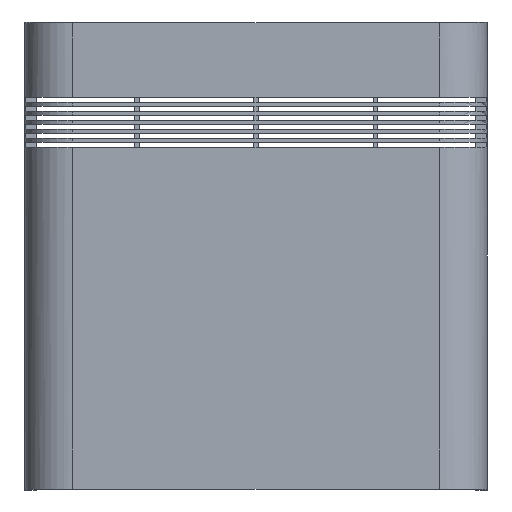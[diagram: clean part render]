
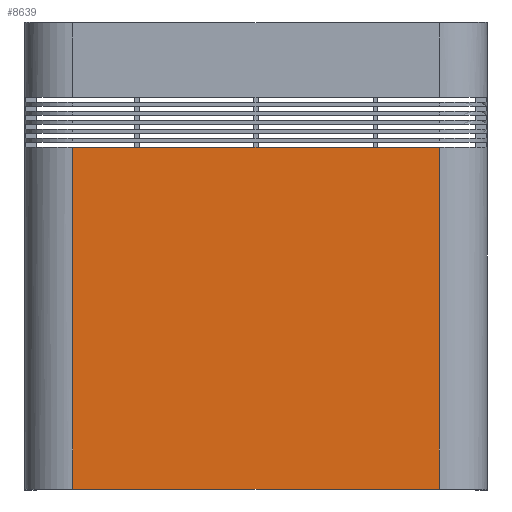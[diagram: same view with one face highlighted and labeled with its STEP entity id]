
A CAD part, front view. The second image highlights one B-rep face of the part: STEP entity #8639.
In plain terms, the highlighted planar face has unit normal (0, -1, 0).
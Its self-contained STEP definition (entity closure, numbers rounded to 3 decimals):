
#342 = ORIENTED_EDGE ( 'NONE', *, *, #6120, .T. ) ;
#361 = ORIENTED_EDGE ( 'NONE', *, *, #3315, .F. ) ;
#635 = CARTESIAN_POINT ( 'NONE',  ( -61.5, -54., 36.5 ) ) ;
#682 = DIRECTION ( 'NONE',  ( 1., 0., 0. ) ) ;
#1080 = VECTOR ( 'NONE', #6146, 1000. ) ;
#1690 = VERTEX_POINT ( 'NONE', #1734 ) ;
#1734 = CARTESIAN_POINT ( 'NONE',  ( 61.5, -54., -78.2 ) ) ;
#2174 = DIRECTION ( 'NONE',  ( 1., 0., 0. ) ) ;
#2220 = DIRECTION ( 'NONE',  ( 0., -1., 0. ) ) ;
#2720 = VERTEX_POINT ( 'NONE', #7290 ) ;
#2726 = VERTEX_POINT ( 'NONE', #7299 ) ;
#2818 = AXIS2_PLACEMENT_3D ( 'NONE', #4339, #2220, #2174 ) ;
#2920 = PLANE ( 'NONE',  #2818 ) ;
#2931 = EDGE_LOOP ( 'NONE', ( #361, #5413, #6351, #342 ) ) ;
#3315 = EDGE_CURVE ( 'NONE', #2720, #2726, #7439, .T. ) ;
#4156 = DIRECTION ( 'NONE',  ( 0., 0., 1. ) ) ;
#4173 = CARTESIAN_POINT ( 'NONE',  ( -61.5, -54., -78.2 ) ) ;
#4219 = LINE ( 'NONE', #4173, #7779 ) ;
#4339 = CARTESIAN_POINT ( 'NONE',  ( -61.5, -54., -78.2 ) ) ;
#4480 = EDGE_CURVE ( 'NONE', #4896, #1690, #7793, .T. ) ;
#4896 = VERTEX_POINT ( 'NONE', #8072 ) ;
#5160 = LINE ( 'NONE', #7605, #8736 ) ;
#5362 = EDGE_CURVE ( 'NONE', #4896, #2720, #4219, .T. ) ;
#5413 = ORIENTED_EDGE ( 'NONE', *, *, #5362, .F. ) ;
#5648 = VECTOR ( 'NONE', #682, 1000. ) ;
#6120 = EDGE_CURVE ( 'NONE', #1690, #2726, #5160, .T. ) ;
#6146 = DIRECTION ( 'NONE',  ( 1., 0., 0. ) ) ;
#6351 = ORIENTED_EDGE ( 'NONE', *, *, #4480, .T. ) ;
#7075 = FACE_OUTER_BOUND ( 'NONE', #2931, .T. ) ;
#7290 = CARTESIAN_POINT ( 'NONE',  ( -61.5, -54., 36.5 ) ) ;
#7299 = CARTESIAN_POINT ( 'NONE',  ( 61.5, -54., 36.5 ) ) ;
#7308 = CARTESIAN_POINT ( 'NONE',  ( -61.5, -54., -78.2 ) ) ;
#7403 = DIRECTION ( 'NONE',  ( 0., 0., 1. ) ) ;
#7439 = LINE ( 'NONE', #635, #5648 ) ;
#7605 = CARTESIAN_POINT ( 'NONE',  ( 61.5, -54., -78.2 ) ) ;
#7779 = VECTOR ( 'NONE', #4156, 1000. ) ;
#7793 = LINE ( 'NONE', #7308, #1080 ) ;
#8072 = CARTESIAN_POINT ( 'NONE',  ( -61.5, -54., -78.2 ) ) ;
#8639 = ADVANCED_FACE ( 'NONE', ( #7075 ), #2920, .T. ) ;
#8736 = VECTOR ( 'NONE', #7403, 1000. ) ;
